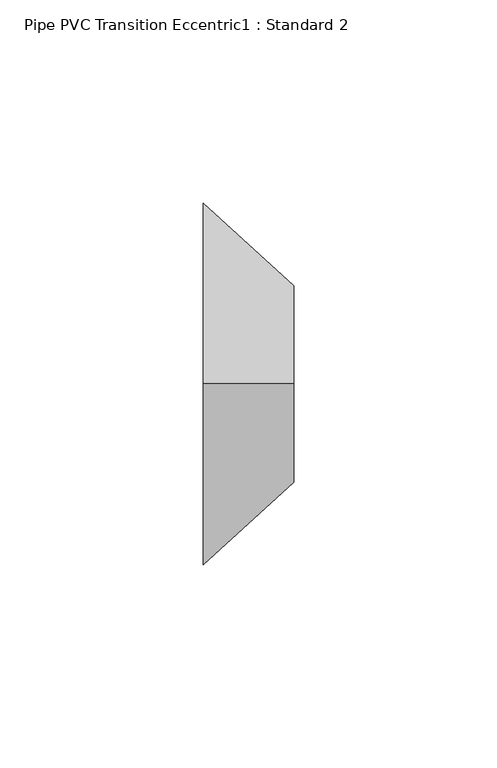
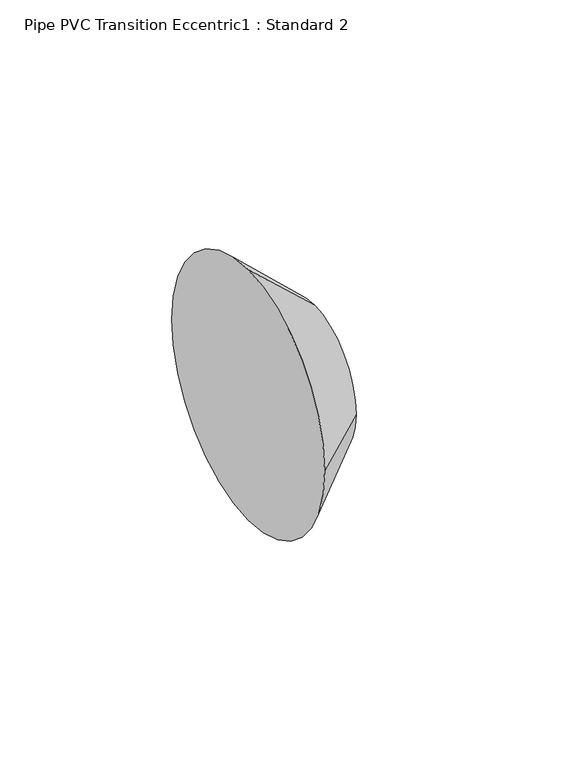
"""IFC4 building model written with IfcOpenShell, lengths in millimetres: pipe fitting geometry, Pipe PVC Transition Eccentric1 : Standard 2."""

from ifc_helpers import new_model, si_unit, frame, origin, place, context, project, spatial, polyline, circle_curve, source, transform, mapped, element, save
from ifc_brep_helpers import plane_surface, revolved_surface, advanced_brep


def pipe_pvc_transition_eccentric1_standard_2_d7abf36d(model_context):
    return source(origin(), model_context, "Body", "AdvancedBrep", [
        advanced_brep(
        [(22.225, -65.0875, 24.13), (22.225, -89.2175, 0.0), (22.225, -65.0875, -24.13), (22.225, -40.9575, 0.0), (0.0, -65.0875, 44.45), (0.0, -20.6375, 0.0), (0.0, -65.0875, -44.45), (0.0, -109.5375, 0.0)],
        [
            (0, 1, circle_curve(frame((22.225, -65.0875, 0.0), z_axis=(1.0, 0.0, 0.0), x_axis=(0.0, 0.0, 1.0)), 24.13)),
            (1, 2, circle_curve(frame((22.225, -65.0875, 0.0), z_axis=(1.0, 0.0, 0.0), x_axis=(0.0, -1.0, 0.0)), 24.13)),
            (2, 3, circle_curve(frame((22.225, -65.0875, 0.0), z_axis=(1.0, 0.0, 0.0), x_axis=(0.0, 0.0, -1.0)), 24.13)),
            (3, 0, circle_curve(frame((22.225, -65.0875, 0.0), z_axis=(1.0, 0.0, 0.0), x_axis=(0.0, 1.0, 0.0)), 24.13)),
            (4, 5, circle_curve(frame((0.0, -65.0875, 0.0), z_axis=(-1.0, 0.0, 0.0), x_axis=(0.0, 1.0, 0.0)), 44.45)),
            (5, 6, circle_curve(frame((0.0, -65.0875, 0.0), z_axis=(-1.0, 0.0, 0.0), x_axis=(0.0, 0.0, -1.0)), 44.45)),
            (6, 7, circle_curve(frame((0.0, -65.0875, 0.0), z_axis=(-1.0, 0.0, 0.0), x_axis=(0.0, -1.0, 0.0)), 44.45)),
            (7, 4, circle_curve(frame((0.0, -65.0875, 0.0), z_axis=(-1.0, 0.0, 0.0), x_axis=(0.0, 0.0, 1.0)), 44.45)),
            (7, 1),
            (0, 4),
            (6, 2),
            (5, 3),
        ],
        [
            plane_surface(frame((22.225, -65.0875, 0.0), z_axis=(1.0, 0.0, 0.0), x_axis=(0.0, -1.0, 0.0))),
            plane_surface(frame((0.0, -65.0875, 0.0), z_axis=(-1.0, 0.0, 0.0), x_axis=(0.0, -1.0, 0.0))),
            revolved_surface(polyline([(22.225, -65.0875, 24.13), (0.0, -65.0875, 44.45)]), (48.6171875, -65.0875, 0.0), (-1.0, 0.0, 0.0)),
            revolved_surface(polyline([(22.225, -89.2175, 0.0), (0.0, -109.5375, 0.0)]), (48.6171875, -65.0875, 0.0), (-1.0, 0.0, 0.0)),
            revolved_surface(polyline([(22.225, -65.0875, -24.13), (0.0, -65.0875, -44.45)]), (48.6171875, -65.0875, 0.0), (-1.0, 0.0, 0.0)),
            revolved_surface(polyline([(22.225, -40.95750000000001, 0.0), (0.0, -20.637500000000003, 0.0)]), (48.6171875, -65.0875, 0.0), (-1.0, 0.0, 0.0)),
        ],
        [
            (0, [[1, 2, 3, 4]]),
            (1, [[5, 6, 7, 8]]),
            (2, [[-8, 9, -1, 10]]),
            (3, [[-7, 11, -2, -9]]),
            (4, [[-6, 12, -3, -11]]),
            (5, [[-5, -10, -4, -12]]),
        ],
    ),
        advanced_brep(
        [(22.225, -65.0875, 24.13), (22.225, -89.2175, 0.0), (22.225, -65.0875, -24.13), (22.225, -40.9575, 0.0), (0.0, -65.0875, 44.45), (0.0, -20.6375, 0.0), (0.0, -65.0875, -44.45), (0.0, -109.5375, 0.0)],
        [
            (0, 1, circle_curve(frame((22.225, -65.0875, 0.0), z_axis=(1.0, 0.0, 0.0), x_axis=(0.0, 0.0, 1.0)), 24.13)),
            (1, 2, circle_curve(frame((22.225, -65.0875, 0.0), z_axis=(1.0, 0.0, 0.0), x_axis=(0.0, -1.0, 0.0)), 24.13)),
            (2, 3, circle_curve(frame((22.225, -65.0875, 0.0), z_axis=(1.0, 0.0, 0.0), x_axis=(0.0, 0.0, -1.0)), 24.13)),
            (3, 0, circle_curve(frame((22.225, -65.0875, 0.0), z_axis=(1.0, 0.0, 0.0), x_axis=(0.0, 1.0, 0.0)), 24.13)),
            (4, 5, circle_curve(frame((0.0, -65.0875, 0.0), z_axis=(-1.0, 0.0, 0.0), x_axis=(0.0, 1.0, 0.0)), 44.45)),
            (5, 6, circle_curve(frame((0.0, -65.0875, 0.0), z_axis=(-1.0, 0.0, 0.0), x_axis=(0.0, 0.0, -1.0)), 44.45)),
            (6, 7, circle_curve(frame((0.0, -65.0875, 0.0), z_axis=(-1.0, 0.0, 0.0), x_axis=(0.0, -1.0, 0.0)), 44.45)),
            (7, 4, circle_curve(frame((0.0, -65.0875, 0.0), z_axis=(-1.0, 0.0, 0.0), x_axis=(0.0, 0.0, 1.0)), 44.45)),
            (7, 1),
            (0, 4),
            (6, 2),
            (5, 3),
        ],
        [
            plane_surface(frame((22.225, -65.0875, 0.0), z_axis=(1.0, 0.0, 0.0), x_axis=(0.0, -1.0, 0.0))),
            plane_surface(frame((0.0, -65.0875, 0.0), z_axis=(-1.0, 0.0, 0.0), x_axis=(0.0, -1.0, 0.0))),
            revolved_surface(polyline([(22.225, -65.0875, 24.13), (0.0, -65.0875, 44.45)]), (48.6171875, -65.0875, 0.0), (-1.0, 0.0, 0.0)),
            revolved_surface(polyline([(22.225, -89.2175, 0.0), (0.0, -109.5375, 0.0)]), (48.6171875, -65.0875, 0.0), (-1.0, 0.0, 0.0)),
            revolved_surface(polyline([(22.225, -65.0875, -24.13), (0.0, -65.0875, -44.45)]), (48.6171875, -65.0875, 0.0), (-1.0, 0.0, 0.0)),
            revolved_surface(polyline([(22.225, -40.95750000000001, 0.0), (0.0, -20.637500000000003, 0.0)]), (48.6171875, -65.0875, 0.0), (-1.0, 0.0, 0.0)),
        ],
        [
            (0, [[1, 2, 3, 4]]),
            (1, [[5, 6, 7, 8]]),
            (2, [[-8, 9, -1, 10]]),
            (3, [[-7, 11, -2, -9]]),
            (4, [[-6, 12, -3, -11]]),
            (5, [[-5, -10, -4, -12]]),
        ],
    ),
    ])


if __name__ == "__main__":
    model = new_model("IFC4")
    model_context = context("Model", 3, world=origin())
    ifc_project = project(units=[si_unit("LENGTHUNIT", "METRE", prefix="MILLI")], contexts=[model_context])
    site = spatial("IfcSite", under=ifc_project)
    building = spatial("IfcBuilding", under=site)
    placement = place(None, origin())
    pipe_pvc_transition_eccentric1_standard_2_shape = pipe_pvc_transition_eccentric1_standard_2_d7abf36d(model_context)
    element("IfcPipeFitting", 1, ObjectType="Pipe PVC Transition Eccentric1 : Standard 2", at=placement, inside=building, context=model_context, shape_type="MappedRepresentation", body=[
        mapped(pipe_pvc_transition_eccentric1_standard_2_shape, transform((0.0, 0.0, 0.0), x_axis=(1.0, 0.0, 0.0), y_axis=(0.0, 1.0, 0.0), z_axis=(0.0, 0.0, 1.0))),
    ])
    save(model, "model.ifc")
